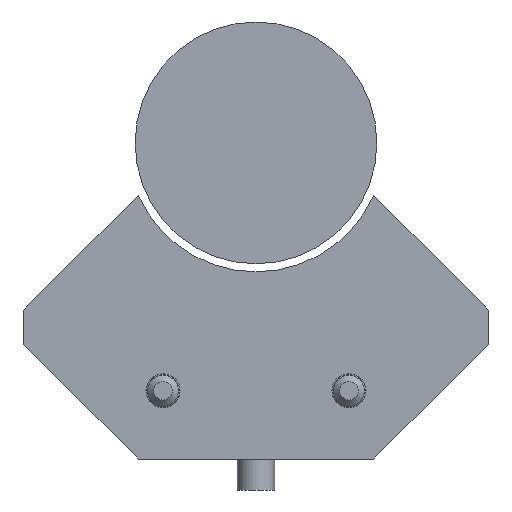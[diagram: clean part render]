
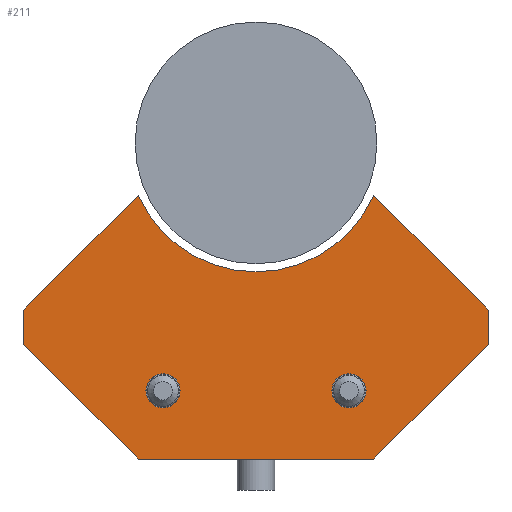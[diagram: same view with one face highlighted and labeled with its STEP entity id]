
A CAD part, front view. The second image highlights one B-rep face of the part: STEP entity #211.
In plain terms, the highlighted planar face has unit normal (0, -1, 0).
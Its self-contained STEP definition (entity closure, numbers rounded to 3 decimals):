
#211=ADVANCED_FACE('',(#5295,#5297,#5299),#5301,.F.);
#5295=FACE_BOUND('',#5296,.T.);
#5296=EDGE_LOOP('',(#9413,#9414,#9415,#9416,#9417,#9418,#9419,#9420));
#5297=FACE_BOUND('',#5298,.T.);
#5298=EDGE_LOOP('',(#9421));
#5299=FACE_BOUND('',#5300,.T.);
#5300=EDGE_LOOP('',(#9422));
#5301=PLANE('',#5302);
#5302=AXIS2_PLACEMENT_3D('',#5303,#5304,#5305);
#5303=CARTESIAN_POINT('',(0.,0.,0.));
#5304=DIRECTION('',(0.,1.,0.));
#5305=DIRECTION('',(0.,0.,-1.));
#9413=ORIENTED_EDGE('',*,*,#13008,.F.);
#9414=ORIENTED_EDGE('',*,*,#13009,.F.);
#9415=ORIENTED_EDGE('',*,*,#13010,.F.);
#9416=ORIENTED_EDGE('',*,*,#13011,.F.);
#9417=ORIENTED_EDGE('',*,*,#13012,.F.);
#9418=ORIENTED_EDGE('',*,*,#13013,.F.);
#9419=ORIENTED_EDGE('',*,*,#13014,.F.);
#9420=ORIENTED_EDGE('',*,*,#13015,.F.);
#9421=ORIENTED_EDGE('',*,*,#12605,.T.);
#9422=ORIENTED_EDGE('',*,*,#13016,.T.);
#12605=EDGE_CURVE('',#14073,#14073,#14074,.T.);
#13008=EDGE_CURVE('',#14879,#14880,#14881,.T.);
#13009=EDGE_CURVE('',#14882,#14879,#14883,.T.);
#13010=EDGE_CURVE('',#14884,#14882,#14885,.T.);
#13011=EDGE_CURVE('',#14886,#14884,#14887,.T.);
#13012=EDGE_CURVE('',#14888,#14886,#14889,.T.);
#13013=EDGE_CURVE('',#14890,#14888,#14891,.T.);
#13014=EDGE_CURVE('',#14892,#14890,#14893,.T.);
#13015=EDGE_CURVE('',#14880,#14892,#14894,.T.);
#13016=EDGE_CURVE('',#14895,#14895,#14896,.T.);
#14073=VERTEX_POINT('',#16532);
#14074=CIRCLE('',#16533,2.75);
#14879=VERTEX_POINT('',#18170);
#14880=VERTEX_POINT('',#18171);
#14881=LINE('',#18172,#18173);
#14882=VERTEX_POINT('',#18175);
#14883=CIRCLE('',#18176,20.8);
#14884=VERTEX_POINT('',#18180);
#14885=LINE('',#18181,#18182);
#14886=VERTEX_POINT('',#18184);
#14887=LINE('',#18185,#18186);
#14888=VERTEX_POINT('',#18188);
#14889=LINE('',#18189,#18190);
#14890=VERTEX_POINT('',#18192);
#14891=LINE('',#18193,#18194);
#14892=VERTEX_POINT('',#18196);
#14893=LINE('',#18197,#18198);
#14894=LINE('',#18200,#18201);
#14895=VERTEX_POINT('',#18203);
#14896=CIRCLE('',#18204,2.75);
#16532=CARTESIAN_POINT('',(12.25,0.,-40.));
#16533=AXIS2_PLACEMENT_3D('',#16534,#16535,#16536);
#16534=CARTESIAN_POINT('',(15.,0.,-40.));
#16535=DIRECTION('',(0.,1.,0.));
#16536=DIRECTION('',(-1.,0.,0.));
#18170=CARTESIAN_POINT('',(19.,0.,-8.464));
#18171=CARTESIAN_POINT('',(37.5,0.,-26.964));
#18172=CARTESIAN_POINT('',(19.,0.,-8.464));
#18173=VECTOR('',#18174,1.);
#18174=DIRECTION('',(0.707,0.,-0.707));
#18175=CARTESIAN_POINT('',(-19.,0.,-8.464));
#18176=AXIS2_PLACEMENT_3D('',#18177,#18178,#18179);
#18177=CARTESIAN_POINT('',(0.,0.,0.));
#18178=DIRECTION('',(0.,-1.,0.));
#18179=DIRECTION('',(-0.913,0.,-0.407));
#18180=CARTESIAN_POINT('',(-37.5,0.,-26.964));
#18181=CARTESIAN_POINT('',(-37.5,0.,-26.964));
#18182=VECTOR('',#18183,1.);
#18183=DIRECTION('',(0.707,0.,0.707));
#18184=CARTESIAN_POINT('',(-37.5,0.,-32.5));
#18185=CARTESIAN_POINT('',(-37.5,0.,-32.5));
#18186=VECTOR('',#18187,1.);
#18187=DIRECTION('',(0.,0.,1.));
#18188=CARTESIAN_POINT('',(-19.,0.,-51.));
#18189=CARTESIAN_POINT('',(-19.,0.,-51.));
#18190=VECTOR('',#18191,1.);
#18191=DIRECTION('',(-0.707,0.,0.707));
#18192=CARTESIAN_POINT('',(19.,0.,-51.));
#18193=CARTESIAN_POINT('',(19.,0.,-51.));
#18194=VECTOR('',#18195,1.);
#18195=DIRECTION('',(-1.,0.,0.));
#18196=CARTESIAN_POINT('',(37.5,0.,-32.5));
#18197=CARTESIAN_POINT('',(37.5,0.,-32.5));
#18198=VECTOR('',#18199,1.);
#18199=DIRECTION('',(-0.707,0.,-0.707));
#18200=CARTESIAN_POINT('',(37.5,0.,-26.964));
#18201=VECTOR('',#18202,1.);
#18202=DIRECTION('',(0.,0.,-1.));
#18203=CARTESIAN_POINT('',(-12.25,0.,-40.));
#18204=AXIS2_PLACEMENT_3D('',#18205,#18206,#18207);
#18205=CARTESIAN_POINT('',(-15.,0.,-40.));
#18206=DIRECTION('',(0.,1.,0.));
#18207=DIRECTION('',(1.,0.,0.));
